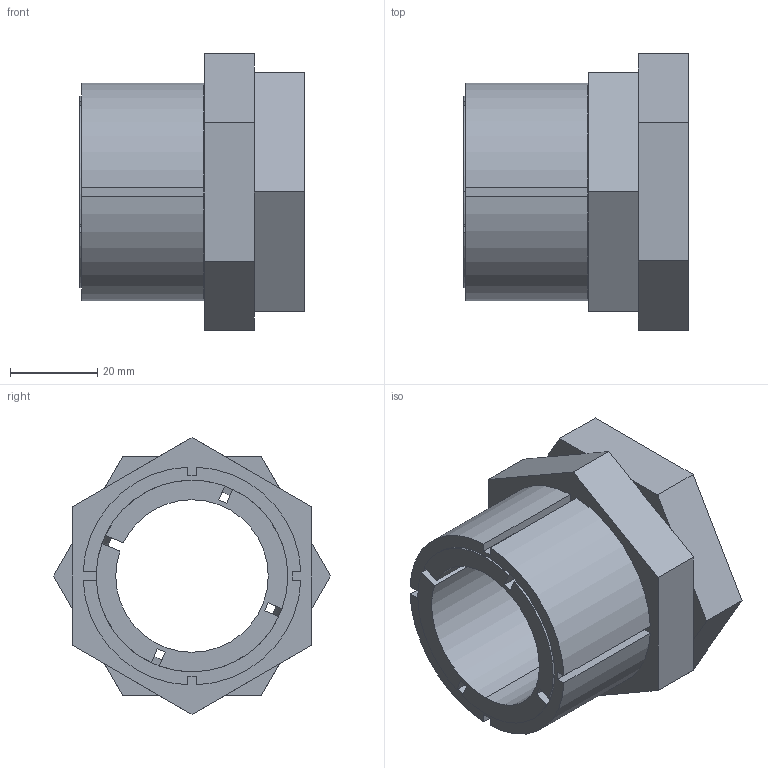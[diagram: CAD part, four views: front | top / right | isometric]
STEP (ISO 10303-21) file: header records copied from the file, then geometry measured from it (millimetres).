
FILE_DESCRIPTION (( 'STEP AP203' ), '1' );
FILE_NAME ('KBS 59 - 35 x 50.STEP', '2015-07-07T21:07:26', ( '' ), ( '' ), 'SwSTEP 2.0', 'SolidWorks 2010', '' );
FILE_SCHEMA (( 'CONFIG_CONTROL_DESIGN' ));
Length unit declared in the file: millimetre
Products named in the file (1): KBS 59 - 35 x 50
Bounding box: 51.5 x 63.51 x 63.51 mm (x, y, z)
Volume: 64415.1 mm3; surface area: 33988.4 mm2
Topology: 3 solids, 3 shells, 78 faces, 204 edges, 132 vertices
Faces by surface type: plane 56, cylinder 14, cone 8
Entity records: 2469 total; most frequent: CARTESIAN_POINT 451, ORIENTED_EDGE 408, DIRECTION 396, EDGE_CURVE 204, VECTOR 150, LINE 150, VERTEX_POINT 132, AXIS2_PLACEMENT_3D 123
